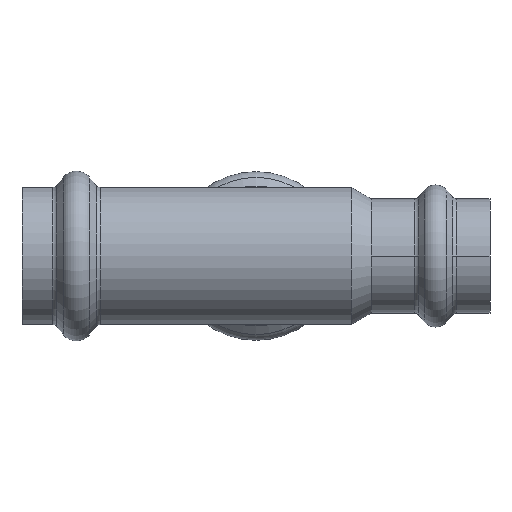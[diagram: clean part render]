
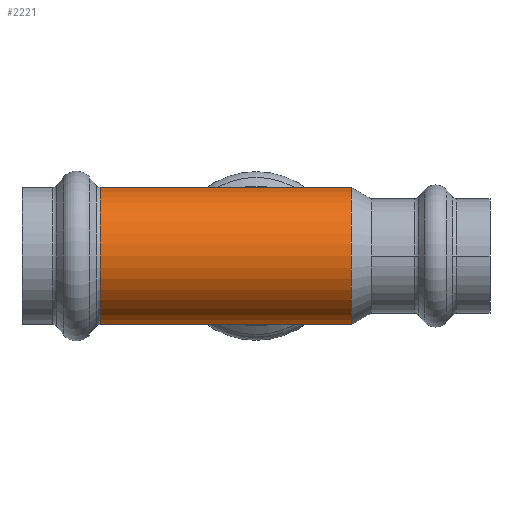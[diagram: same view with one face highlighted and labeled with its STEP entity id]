
A CAD part, front view. The second image highlights one B-rep face of the part: STEP entity #2221.
In plain terms, the highlighted cylindrical face has radius 12.6 mm (diameter 25.2 mm), a partial arc.
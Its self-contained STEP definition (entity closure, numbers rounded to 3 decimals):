
#52 = EDGE_CURVE ( 'NONE', #3044, #2465, #639, .T. ) ;
#67 = CIRCLE ( 'NONE', #2618, 12.6 ) ;
#73 = DIRECTION ( 'NONE',  ( 0., 0., 1. ) ) ;
#182 = LINE ( 'NONE', #3617, #1933 ) ;
#289 = CYLINDRICAL_SURFACE ( 'NONE', #1931, 12.6 ) ;
#314 = DIRECTION ( 'NONE',  ( -1., 0., 0. ) ) ;
#358 = DIRECTION ( 'NONE',  ( -1., 0., 0. ) ) ;
#488 = DIRECTION ( 'NONE',  ( -1., 0., 0. ) ) ;
#617 = FACE_OUTER_BOUND ( 'NONE', #3462, .T. ) ;
#639 = CIRCLE ( 'NONE', #2414, 12.6 ) ;
#670 = CARTESIAN_POINT ( 'NONE',  ( 17.521, 0., -12.6 ) ) ;
#911 = EDGE_CURVE ( 'NONE', #916, #2465, #3292, .T. ) ;
#916 = VERTEX_POINT ( 'NONE', #670 ) ;
#1062 = CARTESIAN_POINT ( 'NONE',  ( -28.606, 0., 12.6 ) ) ;
#1093 = CARTESIAN_POINT ( 'NONE',  ( -28.606, 0., 0. ) ) ;
#1231 = VECTOR ( 'NONE', #314, 1000. ) ;
#1418 = CARTESIAN_POINT ( 'NONE',  ( -58.611, 0., 0. ) ) ;
#1431 = DIRECTION ( 'NONE',  ( 1., 0., 0. ) ) ;
#1763 = DIRECTION ( 'NONE',  ( 0., 0., 1. ) ) ;
#1809 = CARTESIAN_POINT ( 'NONE',  ( -58.611, 0., -12.6 ) ) ;
#1931 = AXIS2_PLACEMENT_3D ( 'NONE', #1418, #358, #1763 ) ;
#1933 = VECTOR ( 'NONE', #488, 1000. ) ;
#2158 = DIRECTION ( 'NONE',  ( 1., 0., 0. ) ) ;
#2221 = ADVANCED_FACE ( 'NONE', ( #617 ), #289, .T. ) ;
#2286 = ORIENTED_EDGE ( 'NONE', *, *, #911, .F. ) ;
#2356 = EDGE_CURVE ( 'NONE', #3461, #916, #67, .T. ) ;
#2414 = AXIS2_PLACEMENT_3D ( 'NONE', #1093, #1431, #4415 ) ;
#2465 = VERTEX_POINT ( 'NONE', #4294 ) ;
#2551 = ORIENTED_EDGE ( 'NONE', *, *, #52, .T. ) ;
#2618 = AXIS2_PLACEMENT_3D ( 'NONE', #4241, #2158, #73 ) ;
#3044 = VERTEX_POINT ( 'NONE', #1062 ) ;
#3292 = LINE ( 'NONE', #1809, #1231 ) ;
#3380 = EDGE_CURVE ( 'NONE', #3461, #3044, #182, .T. ) ;
#3461 = VERTEX_POINT ( 'NONE', #3646 ) ;
#3462 = EDGE_LOOP ( 'NONE', ( #2286, #3686, #4040, #2551 ) ) ;
#3617 = CARTESIAN_POINT ( 'NONE',  ( -58.611, 0., 12.6 ) ) ;
#3646 = CARTESIAN_POINT ( 'NONE',  ( 17.521, 0., 12.6 ) ) ;
#3686 = ORIENTED_EDGE ( 'NONE', *, *, #2356, .F. ) ;
#4040 = ORIENTED_EDGE ( 'NONE', *, *, #3380, .T. ) ;
#4241 = CARTESIAN_POINT ( 'NONE',  ( 17.521, 0., 0. ) ) ;
#4294 = CARTESIAN_POINT ( 'NONE',  ( -28.606, 0., -12.6 ) ) ;
#4415 = DIRECTION ( 'NONE',  ( 0., 0., 1. ) ) ;
